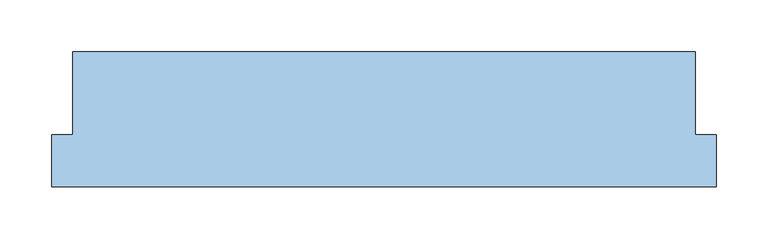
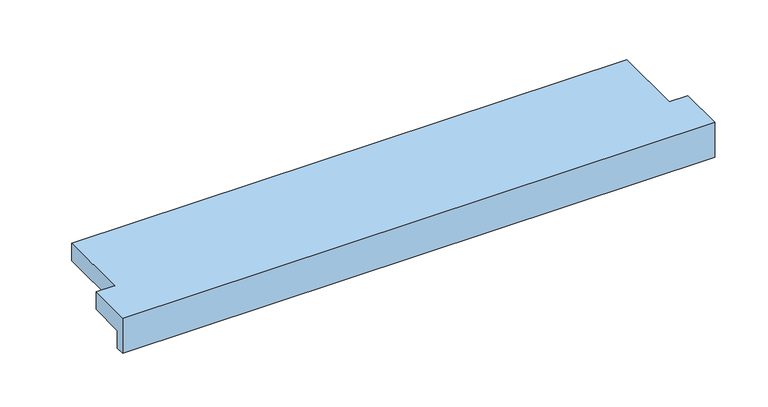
"""IFC4 building model written with IfcOpenShell, lengths in millimetres: window geometry, В2В_Подоконник_ПВХ : ОК 1."""

from ifc_helpers import new_model, si_unit, origin, place, context, project, spatial, faceted_brep, source, transform, mapped, element, save


def window_ea214aab(model_context):
    return source(origin(), model_context, "Body", "Brep", [
        faceted_brep([(300.0, 0.0, 0.0), (300.0, 0.0, 20.0), (300.0, -80.0, 20.0), (300.0, -80.0, 0.0), (-300.0, 0.0, 0.0), (-300.0, -80.0, 0.0), (-300.0, -80.0, 20.0), (-300.0, 0.0, 20.0), (-320.0, -80.0, 20.0), (-320.0, -130.0, 20.0), (320.0, -130.0, 20.0), (320.0, -80.0, 20.0), (320.0, -80.0, 0.0), (320.0, -120.0, 0.0), (-320.0, -120.0, 0.0), (-320.0, -80.0, 0.0), (320.0, -130.0, -20.0), (320.0, -120.0, -20.0), (-320.0, -120.0, -20.0), (-320.0, -130.0, -20.0)], [[[0, 1, 2, 3]], [[4, 5, 6, 7]], [[1, 0, 4, 7]], [[2, 1, 7, 6, 8, 9, 10, 11]], [[0, 3, 12, 13, 14, 15, 5, 4]], [[12, 11, 10, 16, 17, 13]], [[15, 14, 18, 19, 9, 8]], [[11, 12, 3, 2]], [[15, 8, 6, 5]], [[16, 10, 9, 19]], [[17, 16, 19, 18]], [[13, 17, 18, 14]]]),
    ])


if __name__ == "__main__":
    model = new_model("IFC4")
    model_context = context("Model", 3, world=origin())
    ifc_project = project(units=[si_unit("LENGTHUNIT", "METRE", prefix="MILLI")], contexts=[model_context])
    site = spatial("IfcSite", under=ifc_project)
    building = spatial("IfcBuilding", under=site)
    placement = place(None, origin())
    window_shape = window_ea214aab(model_context)
    element("IfcWindow", 1, ObjectType="В2В_Подоконник_ПВХ : ОК 1", at=placement, inside=building, context=model_context, shape_type="MappedRepresentation", body=[
        mapped(window_shape, transform((0.0, 0.0, 0.0), x_axis=(1.0, 0.0, 0.0), y_axis=(0.0, 1.0, 0.0), z_axis=(0.0, 0.0, 1.0))),
    ])
    save(model, "model.ifc")
